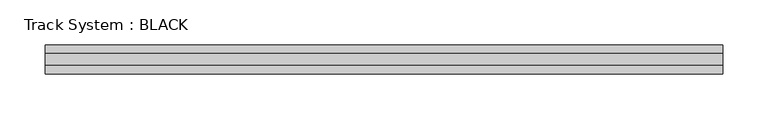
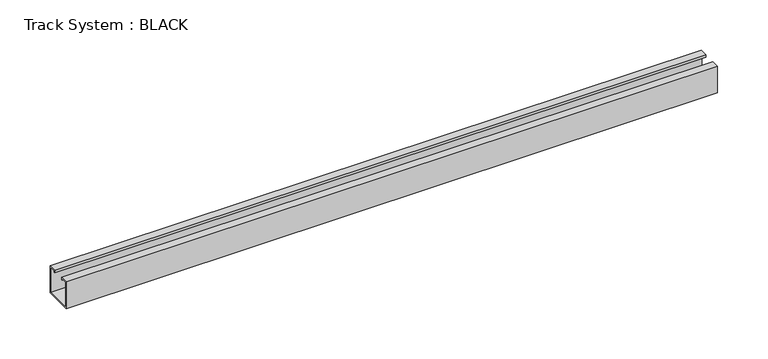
"""IFC4 building model written with IfcOpenShell, lengths in millimetres: proxy geometry, Track System : BLACK."""

from ifc_helpers import new_model, si_unit, frame, origin, place, context, project, spatial, polyline, outline, extrude, source, transform, mapped, element, save


def track_system_black_f11a83a5(model_context):
    return source(origin(), model_context, "Body", "SweptSolid", [
        extrude(outline(polyline([(-7.0, 32.5), (-7.0, 29.5366355), (-8.0, 29.5366355), (-8.0, 31.5), (-14.9857524, 31.5), (-14.9857524, 1.0), (15.0, 1.0), (15.0, 31.5), (8.0, 31.5), (8.0, 29.5366355), (7.0, 29.5366355), (7.0, 32.5), (16.0, 32.5), (16.0, 0.0), (-15.9857524, 0.0), (-15.9857524, 32.5), (-7.0, 32.5)])), frame((-375.0, 0.0, 0.0), z_axis=(1.0, 0.0, 0.0), x_axis=(0.0, 1.0, 0.0)), (0.0, 0.0, 1.0), 750.0),
    ])


if __name__ == "__main__":
    model = new_model("IFC4")
    model_context = context("Model", 3, world=origin())
    ifc_project = project(units=[si_unit("LENGTHUNIT", "METRE", prefix="MILLI")], contexts=[model_context])
    site = spatial("IfcSite", under=ifc_project)
    building = spatial("IfcBuilding", under=site)
    placement = place(None, origin())
    track_system_black_shape = track_system_black_f11a83a5(model_context)
    element("IfcBuildingElementProxy", 1, Name="Track System : BLACK", ObjectType="Track System : BLACK", at=placement, inside=building, context=model_context, shape_type="MappedRepresentation", body=[
        mapped(track_system_black_shape, transform((0.0, 0.0, 0.0), x_axis=(1.0, 0.0, 0.0), y_axis=(0.0, 1.0, 0.0), z_axis=(0.0, 0.0, 1.0))),
    ])
    save(model, "model.ifc")
